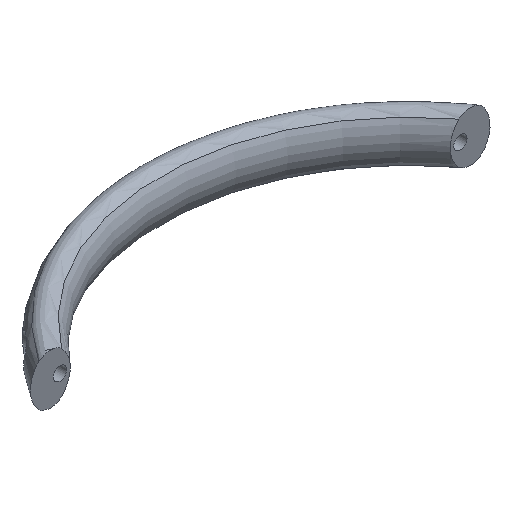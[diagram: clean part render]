
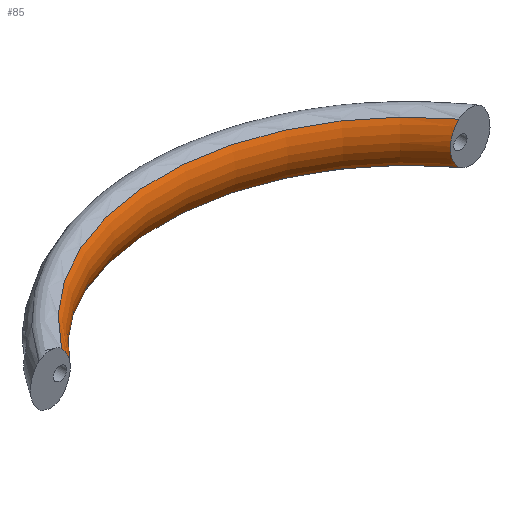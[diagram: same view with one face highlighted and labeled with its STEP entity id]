
A CAD part, isometric view. The second image highlights one B-rep face of the part: STEP entity #85.
In plain terms, the highlighted toroidal (fillet/blend) face has major radius 110.322 mm and minor radius 13.914 mm.
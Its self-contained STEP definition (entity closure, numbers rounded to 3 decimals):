
#85 = ADVANCED_FACE( '', ( #119 ), #120, .T. );
#119 = FACE_OUTER_BOUND( '', #161, .T. );
#120 = TOROIDAL_SURFACE( '', #162, 110.322, 13.914 );
#161 = EDGE_LOOP( '', ( #247, #248, #249, #250 ) );
#162 = AXIS2_PLACEMENT_3D( '', #251, #252, #253 );
#247 = ORIENTED_EDGE( '', *, *, #310, .F. );
#248 = ORIENTED_EDGE( '', *, *, #302, .T. );
#249 = ORIENTED_EDGE( '', *, *, #311, .T. );
#250 = ORIENTED_EDGE( '', *, *, #297, .T. );
#251 = CARTESIAN_POINT( '', ( 0., -59.408, 0. ) );
#252 = DIRECTION( '', ( 0., 0., -1. ) );
#253 = DIRECTION( '', ( -1., 0., 0. ) );
#297 = EDGE_CURVE( '', #340, #337, #341, .T. );
#302 = EDGE_CURVE( '', #350, #347, #351, .T. );
#310 = EDGE_CURVE( '', #350, #337, #360, .T. );
#311 = EDGE_CURVE( '', #347, #340, #361, .T. );
#337 = VERTEX_POINT( '', #522 );
#340 = VERTEX_POINT( '', #544 );
#341 = B_SPLINE_CURVE_WITH_KNOTS( '', 3, ( #545, #546, #547, #548, #549, #550, #551, #552, #553, #554, #555, #556, #557, #558, #559, #560, #561, #562, #563, #564, #565, #566, #567, #568, #569 ), .UNSPECIFIED., .F., .F., ( 4, 2, 2, 2, 2, 2, 1, 2, 2, 2, 2, 2, 4 ), ( 0.088, 0.091, 0.092, 0.093, 0.095, 0.096, 0.098, 0.099, 0.1, 0.102, 0.103, 0.104, 0.107 ), .UNSPECIFIED. );
#347 = VERTEX_POINT( '', #617 );
#350 = VERTEX_POINT( '', #637 );
#351 = B_SPLINE_CURVE_WITH_KNOTS( '', 3, ( #638, #639, #640, #641, #642, #643, #644, #645, #646, #647, #648, #649, #650, #651, #652, #653, #654, #655, #656, #657, #658, #659, #660, #661 ), .UNSPECIFIED., .F., .F., ( 4, 2, 2, 2, 2, 2, 2, 2, 2, 2, 2, 4 ), ( 0.08, 0.083, 0.084, 0.085, 0.087, 0.088, 0.089, 0.092, 0.093, 0.094, 0.096, 0.099 ), .UNSPECIFIED. );
#360 = CIRCLE( '', #727, 99.17 );
#361 = CIRCLE( '', #728, 99.17 );
#522 = CARTESIAN_POINT( '', ( 79.407, 0., 8.321 ) );
#544 = CARTESIAN_POINT( '', ( 79.407, 0., -8.321 ) );
#545 = CARTESIAN_POINT( '', ( 79.407, 0., -8.321 ) );
#546 = CARTESIAN_POINT( '', ( 78.883, 0., -7.759 ) );
#547 = CARTESIAN_POINT( '', ( 78.404, 0., -7.159 ) );
#548 = CARTESIAN_POINT( '', ( 77.763, 0., -6.197 ) );
#549 = CARTESIAN_POINT( '', ( 77.561, 0., -5.864 ) );
#550 = CARTESIAN_POINT( '', ( 77.189, 0., -5.183 ) );
#551 = CARTESIAN_POINT( '', ( 77.02, 0., -4.836 ) );
#552 = CARTESIAN_POINT( '', ( 76.565, 0., -3.776 ) );
#553 = CARTESIAN_POINT( '', ( 76.329, 0., -3.044 ) );
#554 = CARTESIAN_POINT( '', ( 76.088, 0., -1.905 ) );
#555 = CARTESIAN_POINT( '', ( 76.028, 0., -1.522 ) );
#556 = CARTESIAN_POINT( '', ( 75.948, 0., -0.758 ) );
#557 = CARTESIAN_POINT( '', ( 75.909, 0., 0.006 ) );
#558 = CARTESIAN_POINT( '', ( 75.949, 0., 0.772 ) );
#559 = CARTESIAN_POINT( '', ( 76.03, 0., 1.537 ) );
#560 = CARTESIAN_POINT( '', ( 76.091, 0., 1.922 ) );
#561 = CARTESIAN_POINT( '', ( 76.332, 0., 3.053 ) );
#562 = CARTESIAN_POINT( '', ( 76.567, 0., 3.782 ) );
#563 = CARTESIAN_POINT( '', ( 77.023, 0., 4.84 ) );
#564 = CARTESIAN_POINT( '', ( 77.192, 0., 5.188 ) );
#565 = CARTESIAN_POINT( '', ( 77.563, 0., 5.868 ) );
#566 = CARTESIAN_POINT( '', ( 77.763, 0., 6.197 ) );
#567 = CARTESIAN_POINT( '', ( 78.402, 0., 7.155 ) );
#568 = CARTESIAN_POINT( '', ( 78.88, 0., 7.756 ) );
#569 = CARTESIAN_POINT( '', ( 79.407, 0., 8.321 ) );
#617 = CARTESIAN_POINT( '', ( -79.407, 0., -8.321 ) );
#637 = CARTESIAN_POINT( '', ( -79.407, 0., 8.321 ) );
#638 = CARTESIAN_POINT( '', ( -79.407, 0., 8.321 ) );
#639 = CARTESIAN_POINT( '', ( -78.879, 0., 7.755 ) );
#640 = CARTESIAN_POINT( '', ( -78.401, 0., 7.155 ) );
#641 = CARTESIAN_POINT( '', ( -77.763, 0., 6.197 ) );
#642 = CARTESIAN_POINT( '', ( -77.564, 0., 5.869 ) );
#643 = CARTESIAN_POINT( '', ( -77.194, 0., 5.191 ) );
#644 = CARTESIAN_POINT( '', ( -77.022, 0., 4.84 ) );
#645 = CARTESIAN_POINT( '', ( -76.565, 0., 3.777 ) );
#646 = CARTESIAN_POINT( '', ( -76.331, 0., 3.049 ) );
#647 = CARTESIAN_POINT( '', ( -76.093, 0., 1.927 ) );
#648 = CARTESIAN_POINT( '', ( -76.032, 0., 1.549 ) );
#649 = CARTESIAN_POINT( '', ( -75.95, 0., 0.781 ) );
#650 = CARTESIAN_POINT( '', ( -75.929, 0., 0.39 ) );
#651 = CARTESIAN_POINT( '', ( -75.929, 0., -0.769 ) );
#652 = CARTESIAN_POINT( '', ( -76.009, 0., -1.531 ) );
#653 = CARTESIAN_POINT( '', ( -76.248, 0., -2.661 ) );
#654 = CARTESIAN_POINT( '', ( -76.348, 0., -3.037 ) );
#655 = CARTESIAN_POINT( '', ( -76.584, 0., -3.777 ) );
#656 = CARTESIAN_POINT( '', ( -76.721, 0., -4.139 ) );
#657 = CARTESIAN_POINT( '', ( -77.18, 0., -5.205 ) );
#658 = CARTESIAN_POINT( '', ( -77.558, 0., -5.89 ) );
#659 = CARTESIAN_POINT( '', ( -78.41, 0., -7.166 ) );
#660 = CARTESIAN_POINT( '', ( -78.886, 0., -7.762 ) );
#661 = CARTESIAN_POINT( '', ( -79.407, 0., -8.321 ) );
#727 = AXIS2_PLACEMENT_3D( '', #763, #764, #765 );
#728 = AXIS2_PLACEMENT_3D( '', #766, #767, #768 );
#763 = CARTESIAN_POINT( '', ( 0., -59.408, 8.321 ) );
#764 = DIRECTION( '', ( 0., 0., -1. ) );
#765 = DIRECTION( '', ( -1., 0., 0. ) );
#766 = CARTESIAN_POINT( '', ( 0., -59.408, -8.321 ) );
#767 = DIRECTION( '', ( 0., 0., -1. ) );
#768 = DIRECTION( '', ( -1., 0., 0. ) );
